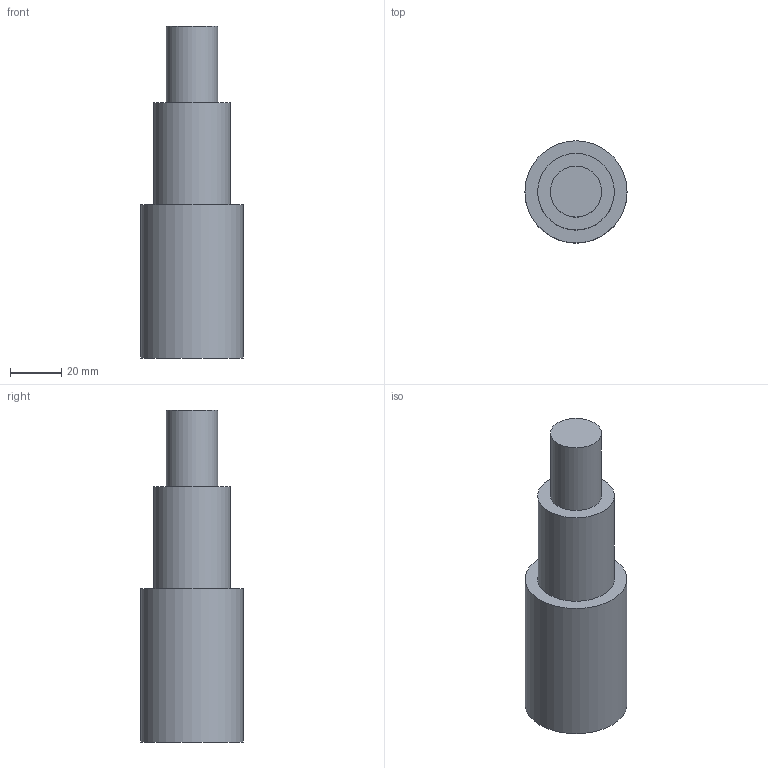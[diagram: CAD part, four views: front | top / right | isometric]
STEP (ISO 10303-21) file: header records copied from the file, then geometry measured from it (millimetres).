
FILE_DESCRIPTION(('FreeCAD Model'),'2;1');
FILE_NAME('Open CASCADE Shape Model','2026-10-30T23:44:36',('FreeCAD'),( 'FreeCAD'),'Open CASCADE STEP processor 7.6','FreeCAD','Unknown');
FILE_SCHEMA(('AUTOMOTIVE_DESIGN { 1 0 10303 214 1 1 1 1 }'));
Length unit declared in the file: millimetre
Products named in the file (1): Open CASCADE STEP translator 7.6 1
Bounding box: 40 x 40 x 130 mm (x, y, z)
Volume: 113097.3 mm3; surface area: 15708 mm2
Topology: 1 solids, 1 shells, 7 faces, 9 edges, 6 vertices
Faces by surface type: plane 4, cylinder 3
Full cylindrical faces by diameter (mm): 20 x1, 30 x1, 40 x1
Entity records: 159 total; most frequent: DIRECTION 31, CARTESIAN_POINT 23, ORIENTED_EDGE 18, AXIS2_PLACEMENT_3D 14, FACE_BOUND 9, EDGE_LOOP 9, EDGE_CURVE 9, ADVANCED_FACE 7
